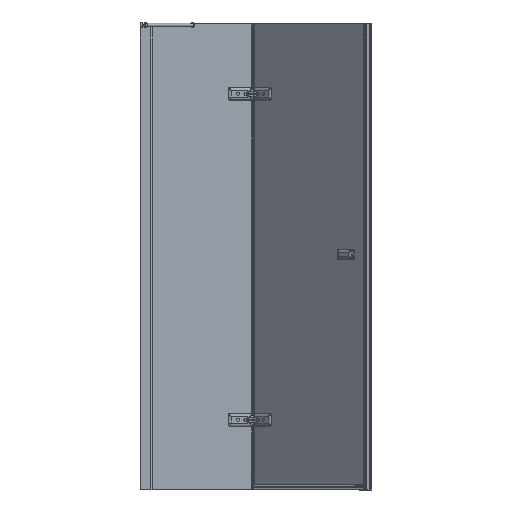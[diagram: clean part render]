
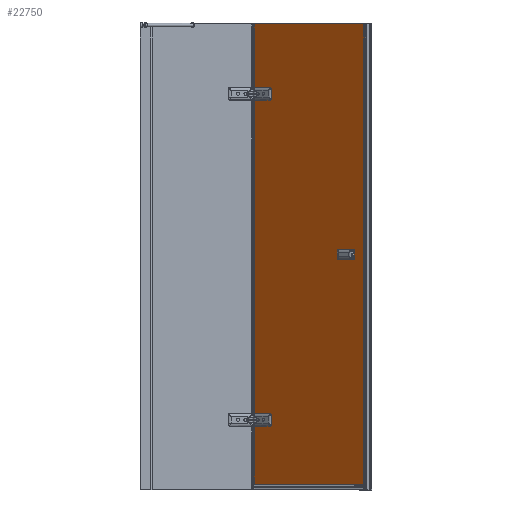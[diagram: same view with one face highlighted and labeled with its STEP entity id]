
A CAD part, left-side view. The second image highlights one B-rep face of the part: STEP entity #22750.
In plain terms, the highlighted planar face has unit normal (-0.707, 0.707, 0).
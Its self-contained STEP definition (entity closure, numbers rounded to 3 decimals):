
#1323=LINE($,#49922,#3308);
#1805=LINE($,#52130,#3790);
#1957=LINE($,#52647,#3942);
#1984=LINE($,#52729,#3969);
#1990=LINE($,#52782,#3975);
#2180=LINE($,#53323,#4165);
#2184=LINE($,#53330,#4169);
#2185=LINE($,#53334,#4170);
#2186=LINE($,#53336,#4171);
#2187=LINE($,#53337,#4172);
#2188=LINE($,#53339,#4173);
#2189=LINE($,#53343,#4174);
#3308=VECTOR($,#27944,1362.);
#3790=VECTOR($,#29300,281.);
#3942=VECTOR($,#29740,671.006);
#3969=VECTOR($,#29853,30.046);
#3975=VECTOR($,#29865,261.);
#4165=VECTOR($,#30249,30.046);
#4169=VECTOR($,#30255,30.046);
#4170=VECTOR($,#30258,18.);
#4171=VECTOR($,#30261,671.006);
#4172=VECTOR($,#30262,1980.);
#4173=VECTOR($,#30263,30.046);
#4174=VECTOR($,#30266,18.);
#5000=FACE_BOUND($,#7368,.T.);
#5001=FACE_BOUND($,#7369,.T.);
#5002=FACE_BOUND($,#7370,.T.);
#7368=EDGE_LOOP($,(#19251));
#7369=EDGE_LOOP($,(#19252));
#7370=EDGE_LOOP($,(#19253,#19254,#19255,#19256,#19257,#19258,#19259,#19260,
#19261,#19262,#19263,#19264,#19265,#19266,#19267,#19268));
#7880=CIRCLE($,#23742,6.5);
#8044=CIRCLE($,#24182,6.5);
#8205=CIRCLE($,#24662,10.);
#8206=CIRCLE($,#24663,10.);
#8207=CIRCLE($,#24664,10.);
#8208=CIRCLE($,#24665,10.);
#8449=VERTEX_POINT($,#32192);
#9240=VERTEX_POINT($,#48911);
#9428=VERTEX_POINT($,#49920);
#9429=VERTEX_POINT($,#49921);
#9706=VERTEX_POINT($,#51196);
#9887=VERTEX_POINT($,#52127);
#9888=VERTEX_POINT($,#52129);
#10041=VERTEX_POINT($,#52646);
#10053=VERTEX_POINT($,#52728);
#10060=VERTEX_POINT($,#52770);
#10061=VERTEX_POINT($,#52781);
#10192=VERTEX_POINT($,#53322);
#10194=VERTEX_POINT($,#53329);
#10195=VERTEX_POINT($,#53331);
#10196=VERTEX_POINT($,#53333);
#10197=VERTEX_POINT($,#53338);
#10198=VERTEX_POINT($,#53340);
#10199=VERTEX_POINT($,#53342);
#11738=EDGE_CURVE($,#9240,#9240,#7880,.T.);
#12034=EDGE_CURVE($,#9428,#9429,#1323,.T.);
#12472=EDGE_CURVE($,#9706,#9706,#8044,.T.);
#12760=EDGE_CURVE($,#9888,#9887,#1805,.T.);
#12993=EDGE_CURVE($,#9888,#10041,#1957,.T.);
#13034=EDGE_CURVE($,#10053,#9428,#1984,.T.);
#13045=EDGE_CURVE($,#10061,#10060,#1990,.T.);
#13258=EDGE_CURVE($,#10192,#10061,#2180,.T.);
#13262=EDGE_CURVE($,#9429,#10194,#2184,.T.);
#13263=EDGE_CURVE($,#10195,#10194,#8205,.T.);
#13264=EDGE_CURVE($,#10195,#10196,#2185,.T.);
#13265=EDGE_CURVE($,#10192,#10196,#8206,.T.);
#13266=EDGE_CURVE($,#10060,#8449,#2186,.T.);
#13267=EDGE_CURVE($,#8449,#10041,#2187,.T.);
#13268=EDGE_CURVE($,#9887,#10197,#2188,.T.);
#13269=EDGE_CURVE($,#10198,#10197,#8207,.T.);
#13270=EDGE_CURVE($,#10198,#10199,#2189,.T.);
#13271=EDGE_CURVE($,#10053,#10199,#8208,.T.);
#19251=ORIENTED_EDGE($,*,*,#11738,.T.);
#19252=ORIENTED_EDGE($,*,*,#12472,.T.);
#19253=ORIENTED_EDGE($,*,*,#12034,.T.);
#19254=ORIENTED_EDGE($,*,*,#13262,.T.);
#19255=ORIENTED_EDGE($,*,*,#13263,.F.);
#19256=ORIENTED_EDGE($,*,*,#13264,.T.);
#19257=ORIENTED_EDGE($,*,*,#13265,.F.);
#19258=ORIENTED_EDGE($,*,*,#13258,.T.);
#19259=ORIENTED_EDGE($,*,*,#13045,.T.);
#19260=ORIENTED_EDGE($,*,*,#13266,.T.);
#19261=ORIENTED_EDGE($,*,*,#13267,.T.);
#19262=ORIENTED_EDGE($,*,*,#12993,.F.);
#19263=ORIENTED_EDGE($,*,*,#12760,.T.);
#19264=ORIENTED_EDGE($,*,*,#13268,.T.);
#19265=ORIENTED_EDGE($,*,*,#13269,.F.);
#19266=ORIENTED_EDGE($,*,*,#13270,.T.);
#19267=ORIENTED_EDGE($,*,*,#13271,.F.);
#19268=ORIENTED_EDGE($,*,*,#13034,.T.);
#20529=PLANE($,#24661);
#22750=ADVANCED_FACE($,(#5000,#5001,#5002),#20529,.T.);
#23742=AXIS2_PLACEMENT_3D($,#48912,#27373,#27374);
#24182=AXIS2_PLACEMENT_3D($,#51197,#28737,#28738);
#24661=AXIS2_PLACEMENT_3D($,#53328,#30253,#30254);
#24662=AXIS2_PLACEMENT_3D($,#53332,#30256,#30257);
#24663=AXIS2_PLACEMENT_3D($,#53335,#30259,#30260);
#24664=AXIS2_PLACEMENT_3D($,#53341,#30264,#30265);
#24665=AXIS2_PLACEMENT_3D($,#53344,#30267,#30268);
#27373=DIRECTION('center_axis',(0.707,-0.707,0.));
#27374=DIRECTION('ref_axis',(0.707,0.707,0.));
#27944=DIRECTION($,(0.,0.,-1.));
#28737=DIRECTION('center_axis',(0.707,-0.707,0.));
#28738=DIRECTION('ref_axis',(0.707,0.707,0.));
#29300=DIRECTION($,(0.,0.,-1.));
#29740=DIRECTION($,(-0.707,-0.707,0.));
#29853=DIRECTION($,(0.707,0.707,0.));
#29865=DIRECTION($,(0.,0.,-1.));
#30249=DIRECTION($,(0.707,0.707,0.));
#30253=DIRECTION('center_axis',(-0.707,0.707,0.));
#30254=DIRECTION('ref_axis',(-0.707,-0.707,0.));
#30255=DIRECTION($,(-0.707,-0.707,0.));
#30256=DIRECTION('center_axis',(-0.707,0.707,0.));
#30257=DIRECTION('ref_axis',(-0.5,-0.5,0.707));
#30258=DIRECTION($,(0.,0.,-1.));
#30259=DIRECTION('center_axis',(-0.707,0.707,0.));
#30260=DIRECTION('ref_axis',(-0.5,-0.5,-0.707));
#30261=DIRECTION($,(-0.707,-0.707,0.));
#30262=DIRECTION($,(0.,0.,1.));
#30263=DIRECTION($,(-0.707,-0.707,0.));
#30264=DIRECTION('center_axis',(-0.707,0.707,0.));
#30265=DIRECTION('ref_axis',(-0.5,-0.5,0.707));
#30266=DIRECTION($,(0.,0.,-1.));
#30267=DIRECTION('center_axis',(-0.707,0.707,0.));
#30268=DIRECTION('ref_axis',(-0.5,-0.5,-0.707));
#32192=CARTESIAN_POINT('',(889.083,-19.026,-394.056));
#48911=CARTESIAN_POINT('',(1314.38,406.27,-114.056));
#48912=CARTESIAN_POINT('Origin',(1318.976,410.866,-114.056));
#49920=CARTESIAN_POINT('',(1363.556,455.447,1266.944));
#49921=CARTESIAN_POINT('',(1363.556,455.447,-95.056));
#49922=CARTESIAN_POINT($,(1363.556,455.447,-104.056));
#51196=CARTESIAN_POINT('',(1314.38,406.27,1285.944));
#51197=CARTESIAN_POINT('Origin',(1318.976,410.866,1285.944));
#52127=CARTESIAN_POINT('',(1363.556,455.447,1304.944));
#52129=CARTESIAN_POINT('',(1363.556,455.447,1585.944));
#52130=CARTESIAN_POINT($,(1363.556,455.447,1585.944));
#52646=CARTESIAN_POINT('',(889.083,-19.026,1585.944));
#52647=CARTESIAN_POINT($,(1364.938,456.828,1585.944));
#52728=CARTESIAN_POINT('',(1342.31,434.201,1266.944));
#52729=CARTESIAN_POINT($,(1350.088,441.979,1266.944));
#52770=CARTESIAN_POINT('',(1363.556,455.447,-394.056));
#52781=CARTESIAN_POINT('',(1363.556,455.447,-133.056));
#52782=CARTESIAN_POINT($,(1363.556,455.447,-414.056));
#53322=CARTESIAN_POINT('',(1342.31,434.201,-133.056));
#53323=CARTESIAN_POINT($,(1350.088,441.979,-133.056));
#53328=CARTESIAN_POINT('Origin',(1364.938,456.828,-394.056));
#53329=CARTESIAN_POINT('',(1342.31,434.201,-95.056));
#53330=CARTESIAN_POINT($,(1364.938,456.828,-95.056));
#53331=CARTESIAN_POINT('',(1335.239,427.13,-105.056));
#53332=CARTESIAN_POINT('Origin',(1342.31,434.201,-105.056));
#53333=CARTESIAN_POINT('',(1335.239,427.13,-123.056));
#53334=CARTESIAN_POINT($,(1335.239,427.13,-244.556));
#53335=CARTESIAN_POINT('Origin',(1342.31,434.201,-123.056));
#53336=CARTESIAN_POINT($,(1364.938,456.828,-394.056));
#53337=CARTESIAN_POINT($,(889.083,-19.026,-394.056));
#53338=CARTESIAN_POINT('',(1342.31,434.201,1304.944));
#53339=CARTESIAN_POINT($,(1364.938,456.828,1304.944));
#53340=CARTESIAN_POINT('',(1335.239,427.13,1294.944));
#53341=CARTESIAN_POINT('Origin',(1342.31,434.201,1294.944));
#53342=CARTESIAN_POINT('',(1335.239,427.13,1276.944));
#53343=CARTESIAN_POINT($,(1335.239,427.13,455.444));
#53344=CARTESIAN_POINT('Origin',(1342.31,434.201,1276.944));
